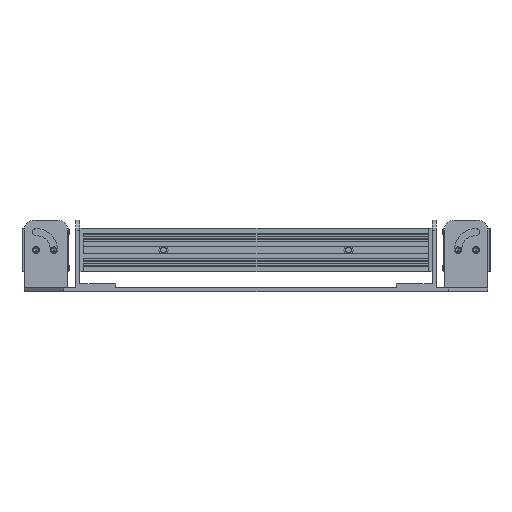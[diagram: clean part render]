
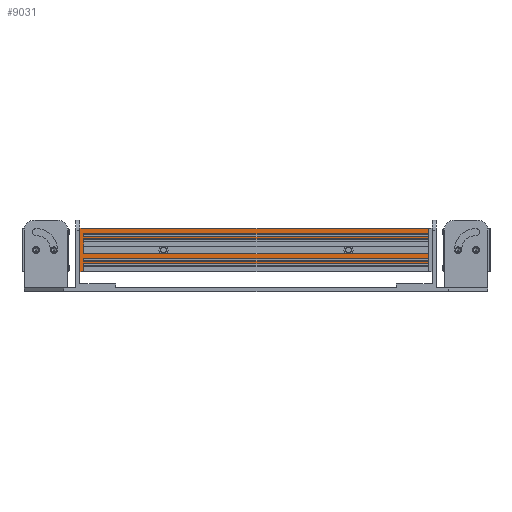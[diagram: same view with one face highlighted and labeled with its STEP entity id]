
A CAD part, left-side view. The second image highlights one B-rep face of the part: STEP entity #9031.
In plain terms, the highlighted planar face has unit normal (-1, 0, 0.001) as drawn and (0.001, -1, 0) by its records, which use the part's own axes.
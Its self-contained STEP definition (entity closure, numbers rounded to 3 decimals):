
#4747=DIRECTION('',(0.,0.,-1.));
#4748=VECTOR('',#4747,2.);
#4749=CARTESIAN_POINT('',(-11.,-12.007,88.5));
#4750=LINE('',#4749,#4748);
#4879=DIRECTION('',(1.,0.,0.));
#4880=VECTOR('',#4879,1.095);
#4881=CARTESIAN_POINT('',(-6.697,-12.007,-86.5));
#4882=LINE('',#4881,#4880);
#4888=CARTESIAN_POINT('',(-4.101,-11.999,-86.5));
#4947=CARTESIAN_POINT('',(5.595,-11.995,-86.5));
#4963=CARTESIAN_POINT('',(8.193,-11.993,-86.5));
#4984=DIRECTION('',(0.,0.,-1.));
#4985=VECTOR('',#4984,173.);
#4986=CARTESIAN_POINT('',(-4.1,-12.,86.5));
#4987=LINE('',#4986,#4985);
#5008=DIRECTION('',(0.,0.,1.));
#5009=VECTOR('',#5008,173.);
#5010=CARTESIAN_POINT('',(-5.603,-12.007,-86.5));
#5011=LINE('',#5010,#5009);
#5016=DIRECTION('',(-1.,0.003,0.));
#5017=VECTOR('',#5016,1.499);
#5018=CARTESIAN_POINT('',(-6.699,-12.001,86.5));
#5019=LINE('',#5018,#5017);
#5020=DIRECTION('',(-1.,0.,0.));
#5021=VECTOR('',#5020,2.604);
#5022=CARTESIAN_POINT('',(-8.198,-11.997,86.5));
#5023=LINE('',#5022,#5021);
#5024=DIRECTION('',(0.,0.,-1.));
#5025=VECTOR('',#5024,2.);
#5026=CARTESIAN_POINT('',(11.,-11.985,88.5));
#5027=LINE('',#5026,#5025);
#5028=DIRECTION('',(-1.,-0.001,0.));
#5029=VECTOR('',#5028,2.608);
#5030=CARTESIAN_POINT('',(10.801,-11.991,-86.5));
#5031=LINE('',#5030,#5029);
#5032=DIRECTION('',(-1.,0.,0.));
#5033=VECTOR('',#5032,1.495);
#5034=CARTESIAN_POINT('',(8.198,-11.995,86.5));
#5035=LINE('',#5034,#5033);
#5036=DIRECTION('',(-1.,0.,0.));
#5037=VECTOR('',#5036,1.108);
#5038=CARTESIAN_POINT('',(6.703,-11.994,-86.5));
#5039=LINE('',#5038,#5037);
#5040=DIRECTION('',(-1.,-0.001,0.));
#5041=VECTOR('',#5040,1.497);
#5042=CARTESIAN_POINT('',(5.598,-11.996,86.5));
#5043=LINE('',#5042,#5041);
#5044=DIRECTION('',(-1.,0.,0.));
#5045=VECTOR('',#5044,2.201);
#5046=CARTESIAN_POINT('',(4.1,-11.997,86.5));
#5047=LINE('',#5046,#5045);
#5048=DIRECTION('',(-1.,0.,0.));
#5049=VECTOR('',#5048,3.799);
#5050=CARTESIAN_POINT('',(1.899,-11.997,86.5));
#5051=LINE('',#5050,#5049);
#5052=DIRECTION('',(-1.,-0.001,0.));
#5053=VECTOR('',#5052,2.2);
#5054=CARTESIAN_POINT('',(-1.901,-11.998,-86.5));
#5055=LINE('',#5054,#5053);
#5056=DIRECTION('',(-1.,-0.001,0.));
#5057=VECTOR('',#5056,1.501);
#5058=CARTESIAN_POINT('',(-4.1,-12.,86.5));
#5059=LINE('',#5058,#5057);
#5064=DIRECTION('',(0.,0.,-1.));
#5065=VECTOR('',#5064,173.);
#5066=CARTESIAN_POINT('',(-6.699,-12.001,86.5));
#5067=LINE('',#5066,#5065);
#5133=DIRECTION('',(0.999,0.051,0.));
#5134=VECTOR('',#5133,0.198);
#5135=CARTESIAN_POINT('',(-11.,-12.007,86.5));
#5136=LINE('',#5135,#5134);
#5145=DIRECTION('',(-1.,-0.001,0.));
#5146=VECTOR('',#5145,22.);
#5147=CARTESIAN_POINT('',(11.,-11.985,88.5));
#5148=LINE('',#5147,#5146);
#5533=DIRECTION('',(0.,0.,1.));
#5534=VECTOR('',#5533,173.);
#5535=CARTESIAN_POINT('',(10.801,-11.991,-86.5));
#5536=LINE('',#5535,#5534);
#5548=DIRECTION('',(0.999,0.038,0.));
#5549=VECTOR('',#5548,0.198);
#5550=CARTESIAN_POINT('',(10.802,-11.992,86.5));
#5551=LINE('',#5550,#5549);
#6344=DIRECTION('',(0.,0.,-1.));
#6345=VECTOR('',#6344,173.);
#6346=CARTESIAN_POINT('',(8.198,-11.995,86.5));
#6347=LINE('',#6346,#6345);
#6368=DIRECTION('',(0.,0.,1.));
#6369=VECTOR('',#6368,173.);
#6370=CARTESIAN_POINT('',(6.703,-11.994,-86.5));
#6371=LINE('',#6370,#6369);
#6406=DIRECTION('',(0.,0.,-1.));
#6407=VECTOR('',#6406,173.);
#6408=CARTESIAN_POINT('',(5.598,-11.996,86.5));
#6409=LINE('',#6408,#6407);
#6566=DIRECTION('',(0.,0.,1.));
#6567=VECTOR('',#6566,173.);
#6568=CARTESIAN_POINT('',(-1.901,-11.998,-86.5));
#6569=LINE('',#6568,#6567);
#7722=CARTESIAN_POINT('',(11.,-11.985,86.5));
#7723=VERTEX_POINT('',#7722);
#7724=CARTESIAN_POINT('',(11.,-11.985,88.5));
#7725=VERTEX_POINT('',#7724);
#7830=CARTESIAN_POINT('',(-11.,-12.007,88.5));
#7831=VERTEX_POINT('',#7830);
#7832=CARTESIAN_POINT('',(-11.,-12.007,86.5));
#7833=VERTEX_POINT('',#7832);
#7918=CARTESIAN_POINT('',(-6.697,-12.007,-86.5));
#7919=VERTEX_POINT('',#7918);
#7931=VERTEX_POINT('',#4888);
#7932=CARTESIAN_POINT('',(-1.901,-11.998,-86.5));
#7933=VERTEX_POINT('',#7932);
#7971=VERTEX_POINT('',#4947);
#7972=CARTESIAN_POINT('',(6.703,-11.994,-86.5));
#7973=VERTEX_POINT('',#7972);
#7981=VERTEX_POINT('',#4963);
#7982=CARTESIAN_POINT('',(10.801,-11.991,-86.5));
#7983=VERTEX_POINT('',#7982);
#7984=CARTESIAN_POINT('',(-5.603,-12.007,-86.5));
#7985=VERTEX_POINT('',#7984);
#8149=CARTESIAN_POINT('',(-6.699,-12.001,86.5));
#8150=VERTEX_POINT('',#8149);
#8151=CARTESIAN_POINT('',(-8.198,-11.997,86.5));
#8152=VERTEX_POINT('',#8151);
#8153=CARTESIAN_POINT('',(-10.802,-11.997,86.5));
#8154=VERTEX_POINT('',#8153);
#8155=CARTESIAN_POINT('',(10.802,-11.992,86.5));
#8156=VERTEX_POINT('',#8155);
#8157=CARTESIAN_POINT('',(8.198,-11.995,86.5));
#8158=VERTEX_POINT('',#8157);
#8159=CARTESIAN_POINT('',(6.703,-11.995,86.5));
#8160=VERTEX_POINT('',#8159);
#8161=CARTESIAN_POINT('',(5.598,-11.996,86.5));
#8162=VERTEX_POINT('',#8161);
#8163=CARTESIAN_POINT('',(4.1,-11.997,86.5));
#8164=VERTEX_POINT('',#8163);
#8165=CARTESIAN_POINT('',(1.899,-11.997,86.5));
#8166=VERTEX_POINT('',#8165);
#8167=CARTESIAN_POINT('',(-1.9,-11.998,86.5));
#8168=VERTEX_POINT('',#8167);
#8169=CARTESIAN_POINT('',(-4.1,-12.,86.5));
#8170=VERTEX_POINT('',#8169);
#8171=CARTESIAN_POINT('',(-5.601,-12.001,86.5));
#8172=VERTEX_POINT('',#8171);
#8983=CARTESIAN_POINT('',(-4.1,-12.,-86.5));
#8984=DIRECTION('',(0.001,-1.,0.));
#8985=DIRECTION('',(1.,0.001,0.));
#8986=AXIS2_PLACEMENT_3D('',#8983,#8984,#8985);
#8987=PLANE('',#8986);
#8988=ORIENTED_EDGE('',*,*,#8826,.F.);
#8990=ORIENTED_EDGE('',*,*,#8989,.F.);
#8992=ORIENTED_EDGE('',*,*,#8991,.T.);
#8994=ORIENTED_EDGE('',*,*,#8993,.T.);
#8996=ORIENTED_EDGE('',*,*,#8995,.F.);
#8997=ORIENTED_EDGE('',*,*,#8667,.F.);
#8999=ORIENTED_EDGE('',*,*,#8998,.F.);
#9001=ORIENTED_EDGE('',*,*,#9000,.T.);
#9003=ORIENTED_EDGE('',*,*,#9002,.F.);
#9005=ORIENTED_EDGE('',*,*,#9004,.F.);
#9006=ORIENTED_EDGE('',*,*,#8894,.T.);
#9008=ORIENTED_EDGE('',*,*,#9007,.F.);
#9010=ORIENTED_EDGE('',*,*,#9009,.T.);
#9012=ORIENTED_EDGE('',*,*,#9011,.F.);
#9013=ORIENTED_EDGE('',*,*,#8882,.T.);
#9015=ORIENTED_EDGE('',*,*,#9014,.F.);
#9017=ORIENTED_EDGE('',*,*,#9016,.T.);
#9019=ORIENTED_EDGE('',*,*,#9018,.T.);
#9021=ORIENTED_EDGE('',*,*,#9020,.T.);
#9023=ORIENTED_EDGE('',*,*,#9022,.F.);
#9024=ORIENTED_EDGE('',*,*,#8838,.T.);
#9025=ORIENTED_EDGE('',*,*,#8922,.F.);
#9027=ORIENTED_EDGE('',*,*,#9026,.T.);
#9028=ORIENTED_EDGE('',*,*,#8975,.F.);
#9029=EDGE_LOOP('',(#8988,#8990,#8992,#8994,#8996,#8997,#8999,#9001,#9003,#9005,
#9006,#9008,#9010,#9012,#9013,#9015,#9017,#9019,#9021,#9023,#9024,#9025,#9027,
#9028));
#9030=FACE_OUTER_BOUND('',#9029,.F.);
#8667=EDGE_CURVE('',#7831,#7833,#4750,.T.);
#8826=EDGE_CURVE('',#7919,#7985,#4882,.T.);
#8838=EDGE_CURVE('',#7933,#7931,#5055,.T.);
#8882=EDGE_CURVE('',#7973,#7971,#5039,.T.);
#8894=EDGE_CURVE('',#7983,#7981,#5031,.T.);
#8922=EDGE_CURVE('',#8170,#7931,#4987,.T.);
#8975=EDGE_CURVE('',#7985,#8172,#5011,.T.);
#8989=EDGE_CURVE('',#8150,#7919,#5067,.T.);
#8991=EDGE_CURVE('',#8150,#8152,#5019,.T.);
#8993=EDGE_CURVE('',#8152,#8154,#5023,.T.);
#8995=EDGE_CURVE('',#7833,#8154,#5136,.T.);
#8998=EDGE_CURVE('',#7725,#7831,#5148,.T.);
#9000=EDGE_CURVE('',#7725,#7723,#5027,.T.);
#9002=EDGE_CURVE('',#8156,#7723,#5551,.T.);
#9004=EDGE_CURVE('',#7983,#8156,#5536,.T.);
#9007=EDGE_CURVE('',#8158,#7981,#6347,.T.);
#9009=EDGE_CURVE('',#8158,#8160,#5035,.T.);
#9011=EDGE_CURVE('',#7973,#8160,#6371,.T.);
#9014=EDGE_CURVE('',#8162,#7971,#6409,.T.);
#9016=EDGE_CURVE('',#8162,#8164,#5043,.T.);
#9018=EDGE_CURVE('',#8164,#8166,#5047,.T.);
#9020=EDGE_CURVE('',#8166,#8168,#5051,.T.);
#9022=EDGE_CURVE('',#7933,#8168,#6569,.T.);
#9026=EDGE_CURVE('',#8170,#8172,#5059,.T.);
#9031=ADVANCED_FACE('',(#9030),#8987,.T.);
